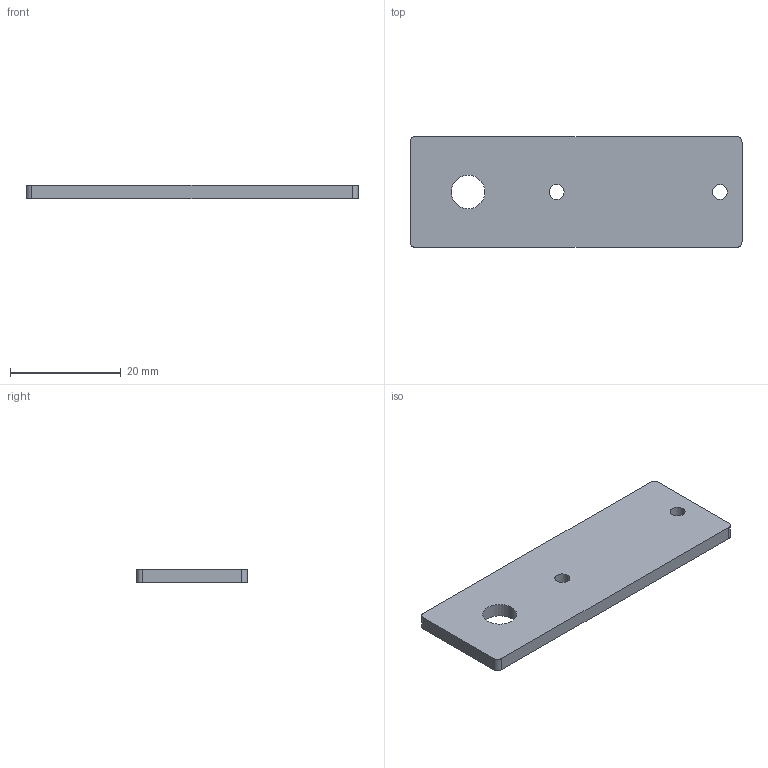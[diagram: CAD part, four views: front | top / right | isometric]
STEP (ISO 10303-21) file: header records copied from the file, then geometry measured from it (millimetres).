
FILE_DESCRIPTION (( 'STEP AP203' ), '1' );
FILE_NAME ('Gimbal Monitor Plate (1 clamp RTU) v1.STEP', '2016-10-20T20:50:34', ( 'drhyoo' ), ( '' ), 'SwSTEP 2.0', 'SolidWorks 2016', '' );
FILE_SCHEMA (( 'CONFIG_CONTROL_DESIGN' ));
Length unit declared in the file: millimetre
Products named in the file (1): Gimbal Monitor Plate (1 clamp RTU) v1
Bounding box: 60 x 20 x 2.5 mm (x, y, z)
Volume: 2896.2 mm3; surface area: 2803 mm2
Topology: 1 solids, 1 shells, 16 faces, 42 edges, 28 vertices
Faces by surface type: cylinder 10, plane 6
Entity records: 595 total; most frequent: DIRECTION 96, CARTESIAN_POINT 87, ORIENTED_EDGE 84, EDGE_CURVE 42, AXIS2_PLACEMENT_3D 37, VERTEX_POINT 28, VECTOR 22, EDGE_LOOP 22
